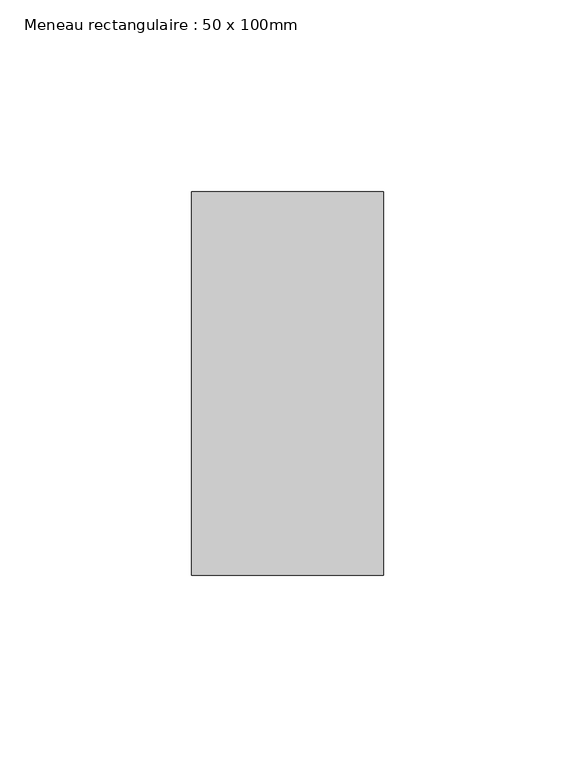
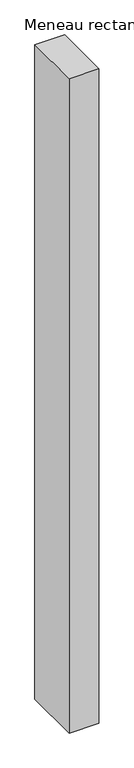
"""IFC4 building model written with IfcOpenShell, lengths in millimetres: member geometry, Meneau rectangulaire : 50 x 100mm."""

from ifc_helpers import new_model, si_unit, frame, origin, place, context, project, spatial, polyline, outline, extrude, source, transform, mapped, element, save


def meneau_rectangulaire_50_x_100mm_148b805f(model_context):
    return source(origin(), model_context, "Body", "SweptSolid", [
        extrude(outline(polyline([(0.0, 50.0), (0.0, -50.0), (-50.0, -50.0), (-50.0, 50.0), (0.0, 50.0)])), frame((0.0, 0.0, -1165.8573191), z_axis=(0.0, 0.0, 1.0), x_axis=(1.0, 0.0, 0.0)), (0.0, 0.0, 1.0), 1165.8573191),
    ])


if __name__ == "__main__":
    model = new_model("IFC4")
    model_context = context("Model", 3, world=origin())
    ifc_project = project(units=[si_unit("LENGTHUNIT", "METRE", prefix="MILLI")], contexts=[model_context])
    site = spatial("IfcSite", under=ifc_project)
    building = spatial("IfcBuilding", under=site)
    placement = place(None, origin())
    meneau_rectangulaire_50_x_100mm_shape = meneau_rectangulaire_50_x_100mm_148b805f(model_context)
    element("IfcMember", 1, ObjectType="Meneau rectangulaire : 50 x 100mm", at=placement, inside=building, context=model_context, shape_type="MappedRepresentation", body=[
        mapped(meneau_rectangulaire_50_x_100mm_shape, transform((0.0, 0.0, 0.0), x_axis=(1.0, 0.0, 0.0), y_axis=(0.0, 1.0, 0.0), z_axis=(0.0, 0.0, 1.0))),
    ])
    save(model, "model.ifc")
